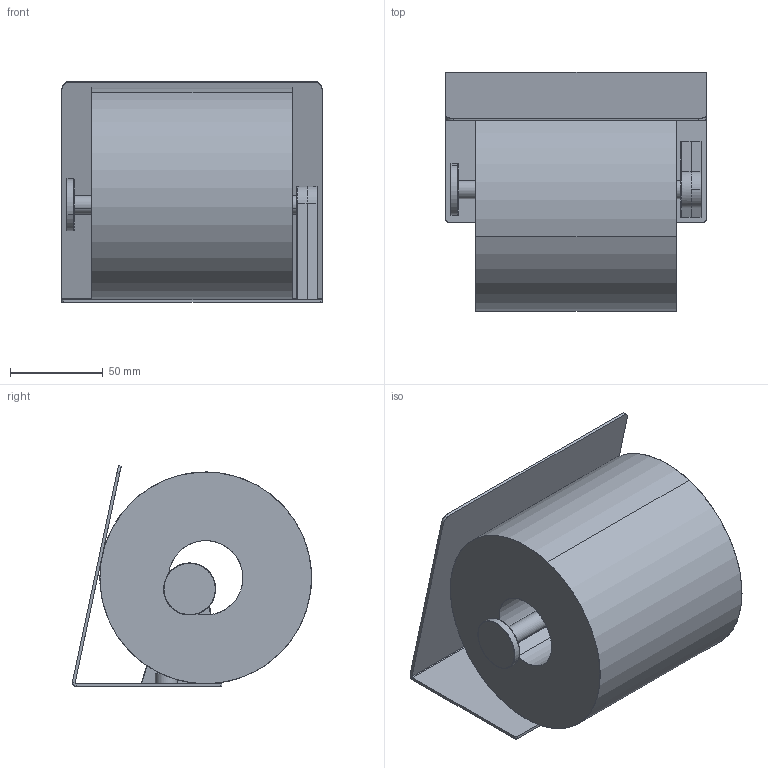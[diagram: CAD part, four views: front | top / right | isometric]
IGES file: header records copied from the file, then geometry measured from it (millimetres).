
Start section: SolidWorks IGES file using analytic representation for surfaces
Global section: file name: G:\4- VARIOS\9 - Web Files\KUBIC\364012###-W.IGS; native system: SolidWorks 2016; preprocessor: SolidWorks 2016; author: arcrog01; date: 211223.110206; units: millimetre
Bounding box: 140 x 128.77 x 118.94 mm (x, y, z)
Surface area: 135634.1 mm2 (no closed solid volume)
Topology: 0 solids, 0 shells, 87 faces, 1127 edges, 1127 vertices
Faces by surface type: revolution 45, bspline 42
